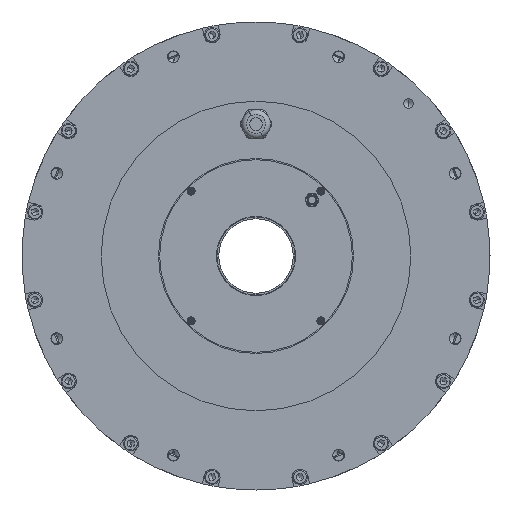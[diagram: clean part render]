
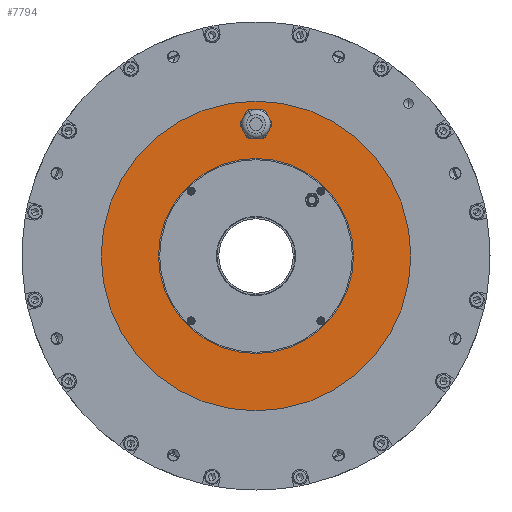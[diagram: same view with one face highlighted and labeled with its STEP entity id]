
A CAD part, front view. The second image highlights one B-rep face of the part: STEP entity #7794.
In plain terms, the highlighted planar face has unit normal (0, -1, 0).
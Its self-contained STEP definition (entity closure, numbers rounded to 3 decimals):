
#634 = CIRCLE ( 'NONE', #18600, 9.25 ) ;
#885 = CIRCLE ( 'NONE', #22940, 85. ) ;
#3025 = VERTEX_POINT ( 'NONE', #33076 ) ;
#5318 = ORIENTED_EDGE ( 'NONE', *, *, #17277, .T. ) ;
#6698 = FACE_BOUND ( 'NONE', #45143, .T. ) ;
#7068 = DIRECTION ( 'NONE',  ( 0., 0., -1. ) ) ;
#7249 = EDGE_CURVE ( 'NONE', #37621, #45767, #885, .T. ) ;
#7259 = DIRECTION ( 'NONE',  ( 0., 0., 1. ) ) ;
#7794 = ADVANCED_FACE ( 'NONE', ( #22569, #6698, #49731 ), #45650, .T. ) ;
#9012 = CARTESIAN_POINT ( 'NONE',  ( 0., -76.4, 0. ) ) ;
#10925 = AXIS2_PLACEMENT_3D ( 'NONE', #42150, #37784, #7068 ) ;
#11297 = CARTESIAN_POINT ( 'NONE',  ( 0., -76.4, -85. ) ) ;
#12157 = ORIENTED_EDGE ( 'NONE', *, *, #7249, .F. ) ;
#12676 = CIRCLE ( 'NONE', #30679, 135. ) ;
#13804 = EDGE_CURVE ( 'NONE', #45767, #37621, #17458, .T. ) ;
#15431 = EDGE_CURVE ( 'NONE', #3025, #34746, #33961, .T. ) ;
#15501 = CARTESIAN_POINT ( 'NONE',  ( 0., -76.4, 105.75 ) ) ;
#16680 = DIRECTION ( 'NONE',  ( 0., 0., -1. ) ) ;
#17277 = EDGE_CURVE ( 'NONE', #34746, #3025, #634, .T. ) ;
#17458 = CIRCLE ( 'NONE', #10925, 85. ) ;
#18600 = AXIS2_PLACEMENT_3D ( 'NONE', #49592, #30127, #41893 ) ;
#18774 = ORIENTED_EDGE ( 'NONE', *, *, #41123, .T. ) ;
#19420 = DIRECTION ( 'NONE',  ( 0., 0., -1. ) ) ;
#22464 = CARTESIAN_POINT ( 'NONE',  ( 0., -76.4, 135. ) ) ;
#22569 = FACE_BOUND ( 'NONE', #33915, .T. ) ;
#22940 = AXIS2_PLACEMENT_3D ( 'NONE', #27097, #42736, #19420 ) ;
#23201 = VERTEX_POINT ( 'NONE', #36931 ) ;
#24173 = AXIS2_PLACEMENT_3D ( 'NONE', #45173, #38256, #7259 ) ;
#24869 = DIRECTION ( 'NONE',  ( 0., -1., 0. ) ) ;
#26102 = ORIENTED_EDGE ( 'NONE', *, *, #15431, .T. ) ;
#26181 = DIRECTION ( 'NONE',  ( 0., 0., -1. ) ) ;
#26451 = AXIS2_PLACEMENT_3D ( 'NONE', #9012, #24869, #16680 ) ;
#27097 = CARTESIAN_POINT ( 'NONE',  ( 0., -76.4, 0. ) ) ;
#30127 = DIRECTION ( 'NONE',  ( 0., 1., 0. ) ) ;
#30679 = AXIS2_PLACEMENT_3D ( 'NONE', #41558, #42063, #26181 ) ;
#31378 = CIRCLE ( 'NONE', #26451, 135. ) ;
#33076 = CARTESIAN_POINT ( 'NONE',  ( 0., -76.4, 124.25 ) ) ;
#33915 = EDGE_LOOP ( 'NONE', ( #47540, #12157 ) ) ;
#33961 = CIRCLE ( 'NONE', #24173, 9.25 ) ;
#34121 = DIRECTION ( 'NONE',  ( 0., -1., 0. ) ) ;
#34366 = DIRECTION ( 'NONE',  ( 0., 0., -1. ) ) ;
#34746 = VERTEX_POINT ( 'NONE', #15501 ) ;
#36931 = CARTESIAN_POINT ( 'NONE',  ( 0., -76.4, -135. ) ) ;
#37621 = VERTEX_POINT ( 'NONE', #40723 ) ;
#37784 = DIRECTION ( 'NONE',  ( 0., -1., 0. ) ) ;
#37948 = CARTESIAN_POINT ( 'NONE',  ( 0., -76.4, 0. ) ) ;
#38256 = DIRECTION ( 'NONE',  ( 0., 1., 0. ) ) ;
#40723 = CARTESIAN_POINT ( 'NONE',  ( 0., -76.4, 85. ) ) ;
#40881 = AXIS2_PLACEMENT_3D ( 'NONE', #37948, #34121, #34366 ) ;
#41123 = EDGE_CURVE ( 'NONE', #46019, #23201, #31378, .T. ) ;
#41558 = CARTESIAN_POINT ( 'NONE',  ( 0., -76.4, 0. ) ) ;
#41663 = ORIENTED_EDGE ( 'NONE', *, *, #49312, .T. ) ;
#41893 = DIRECTION ( 'NONE',  ( 0., 0., 1. ) ) ;
#42063 = DIRECTION ( 'NONE',  ( 0., -1., 0. ) ) ;
#42150 = CARTESIAN_POINT ( 'NONE',  ( 0., -76.4, 0. ) ) ;
#42736 = DIRECTION ( 'NONE',  ( 0., -1., 0. ) ) ;
#44985 = EDGE_LOOP ( 'NONE', ( #18774, #41663 ) ) ;
#45143 = EDGE_LOOP ( 'NONE', ( #26102, #5318 ) ) ;
#45173 = CARTESIAN_POINT ( 'NONE',  ( 0., -76.4, 115. ) ) ;
#45650 = PLANE ( 'NONE',  #40881 ) ;
#45767 = VERTEX_POINT ( 'NONE', #11297 ) ;
#46019 = VERTEX_POINT ( 'NONE', #22464 ) ;
#47540 = ORIENTED_EDGE ( 'NONE', *, *, #13804, .F. ) ;
#49312 = EDGE_CURVE ( 'NONE', #23201, #46019, #12676, .T. ) ;
#49592 = CARTESIAN_POINT ( 'NONE',  ( 0., -76.4, 115. ) ) ;
#49731 = FACE_OUTER_BOUND ( 'NONE', #44985, .T. ) ;
